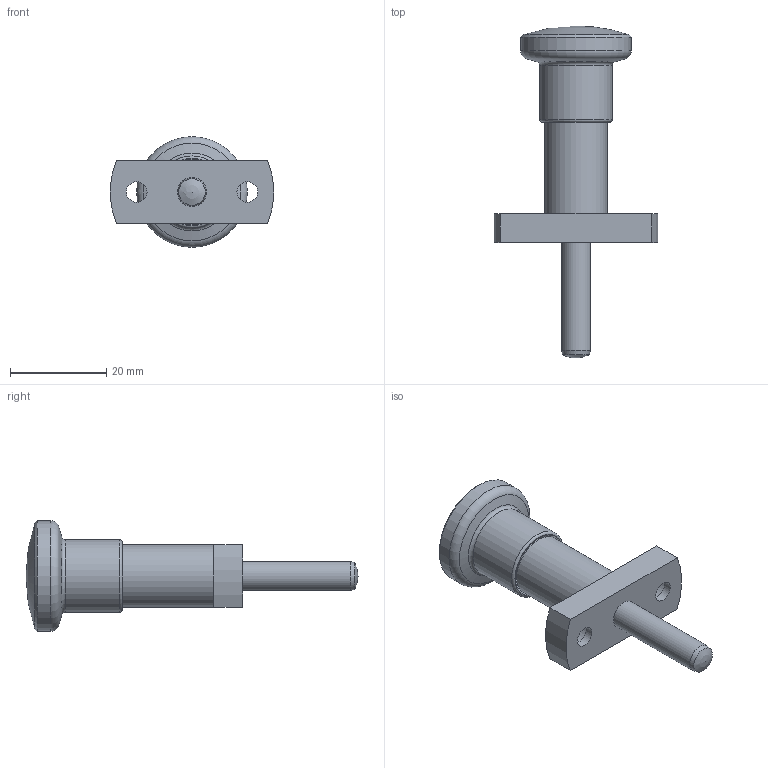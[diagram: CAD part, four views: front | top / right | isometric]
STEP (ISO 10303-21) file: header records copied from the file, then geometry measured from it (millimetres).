
FILE_DESCRIPTION( ( 'STEP AP203' ), '1' );
FILE_NAME( 'C:/Temp/Ganter_Step_05_03_2020/data/3_1/gn817_3/gn_817_3_b/Indexing plunger GN 817.3-6-24-B (deactivated).stp', '2020-03-12T09:02:58', ( 'License CC BY-ND 4.0' ), ( 'CADENAS' ), ' ', 'PARTsolutions', ' ' );
FILE_SCHEMA( ( 'CONFIG_CONTROL_DESIGN' ) );
Length unit declared in the file: millimetre
Products named in the file (3): Indexing plunger GN 817.3-6-24-B (deactivated); _Indexing plunger GN 817.3-6-24-B unbetaetigt-2; _Indexing plunger GN 817.3-6-24-B (deactivated)-1
Assembly tree (2 placements, depth 2):
  Indexing plunger GN 817.3-6-24-B (deactivated)
    _Indexing plunger GN 817.3-6-24-B unbetaetigt-2
    _Indexing plunger GN 817.3-6-24-B (deactivated)-1
Bounding box: 33.9 x 69 x 23 mm (x, y, z)
Volume: 9068.5 mm3; surface area: 6430.8 mm2
Topology: 2 solids, 2 shells, 40 faces, 77 edges, 48 vertices
Faces by surface type: cylinder 17, plane 15, cone 3, torus 3, sphere 2
Full cylindrical faces by diameter (mm): 4.3 x2, 6 x4, 7 x2, 7.8 x2, 9.8 x1, 13 x1, 13.627 x1, 15 x1, 23 x1
Entity records: 998 total; most frequent: DIRECTION 176, CARTESIAN_POINT 139, ORIENTED_EDGE 100, AXIS2_PLACEMENT_3D 83, EDGE_LOOP 76, FACE_OUTER_BOUND 58, EDGE_CURVE 50, VERTEX_POINT 46
